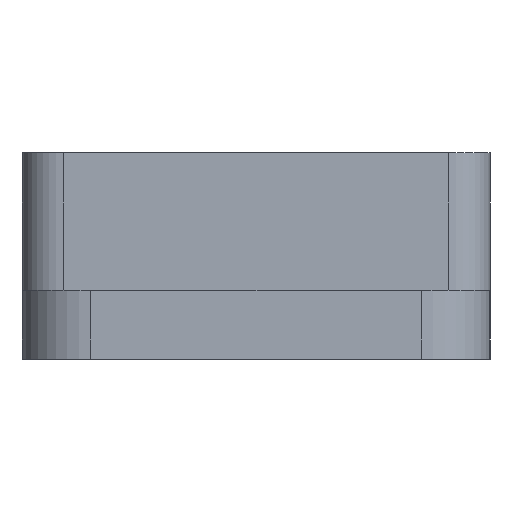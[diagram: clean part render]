
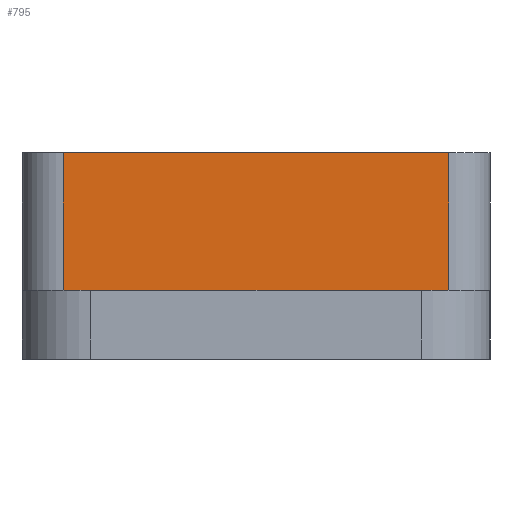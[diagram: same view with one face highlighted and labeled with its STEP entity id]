
A CAD part, left-side view. The second image highlights one B-rep face of the part: STEP entity #795.
In plain terms, the highlighted planar face has unit normal (-1, 0, 0).
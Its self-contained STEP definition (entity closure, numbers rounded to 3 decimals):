
#782=AXIS2_PLACEMENT_3D('Plane Axis2P3D',#779,#780,#781) ;
#142=CARTESIAN_POINT('Vertex',(30.,-36.,15.)) ;
#145=CARTESIAN_POINT('Line Origine',(30.,-50.,15.)) ;
#149=CARTESIAN_POINT('Vertex',(30.,-64.,15.)) ;
#367=CARTESIAN_POINT('Vertex',(30.,-36.,5.)) ;
#409=CARTESIAN_POINT('Vertex',(30.,-64.,5.)) ;
#412=CARTESIAN_POINT('Line Origine',(30.,-50.,5.)) ;
#767=CARTESIAN_POINT('Line Origine',(30.,-64.,7.5)) ;
#779=CARTESIAN_POINT('Axis2P3D Location',(30.,-82.785,15.)) ;
#784=CARTESIAN_POINT('Line Origine',(30.,-36.,10.)) ;
#146=DIRECTION('Vector Direction',(0.,1.,0.)) ;
#413=DIRECTION('Vector Direction',(0.,1.,0.)) ;
#768=DIRECTION('Vector Direction',(0.,0.,-1.)) ;
#780=DIRECTION('Axis2P3D Direction',(-1.,0.,0.)) ;
#781=DIRECTION('Axis2P3D XDirection',(0.,1.,0.)) ;
#785=DIRECTION('Vector Direction',(0.,0.,-1.)) ;
#147=VECTOR('Line Direction',#146,1.) ;
#414=VECTOR('Line Direction',#413,1.) ;
#769=VECTOR('Line Direction',#768,1.) ;
#786=VECTOR('Line Direction',#785,1.) ;
#790=ORIENTED_EDGE('',*,*,#416,.F.) ;
#791=ORIENTED_EDGE('',*,*,#771,.F.) ;
#792=ORIENTED_EDGE('',*,*,#151,.T.) ;
#793=ORIENTED_EDGE('',*,*,#788,.T.) ;
#795=ADVANCED_FACE('\X2\96F64EF651E04F554F53\X0\',(#794),#783,.T.) ;
#151=EDGE_CURVE('',#150,#143,#148,.T.) ;
#416=EDGE_CURVE('',#410,#368,#415,.T.) ;
#771=EDGE_CURVE('',#150,#410,#770,.T.) ;
#788=EDGE_CURVE('',#143,#368,#787,.T.) ;
#789=EDGE_LOOP('',(#790,#791,#792,#793)) ;
#794=FACE_OUTER_BOUND('',#789,.T.) ;
#148=LINE('Line',#145,#147) ;
#415=LINE('Line',#412,#414) ;
#770=LINE('Line',#767,#769) ;
#787=LINE('Line',#784,#786) ;
#783=PLANE('',#782) ;
#143=VERTEX_POINT('',#142) ;
#150=VERTEX_POINT('',#149) ;
#368=VERTEX_POINT('',#367) ;
#410=VERTEX_POINT('',#409) ;
